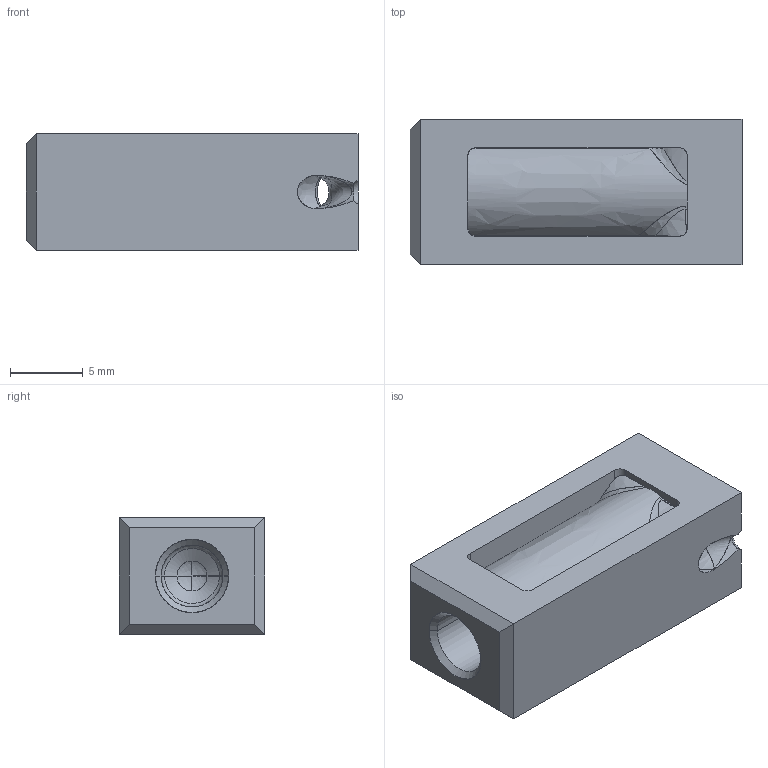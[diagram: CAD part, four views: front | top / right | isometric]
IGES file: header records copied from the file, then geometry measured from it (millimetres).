
Start section: START RECORD GO HERE.
Global section: file name: tgs10-12-s1.igs; native system: DASSAULT SYSTEMES CATIA V5 R20 - www.3ds.com; preprocessor: CATIA Version 5 Release 20 ; author: Utente; organization: NB04-ASUS; date: 20200418.083242; units: millimetre
Bounding box: 22.8 x 10 x 8 mm (x, y, z)
Surface area: 1594.6 mm2 (no closed solid volume)
Topology: 0 solids, 0 shells, 79 faces, 475 edges, 470 vertices
Faces by surface type: revolution 36, plane 22, bspline 21
